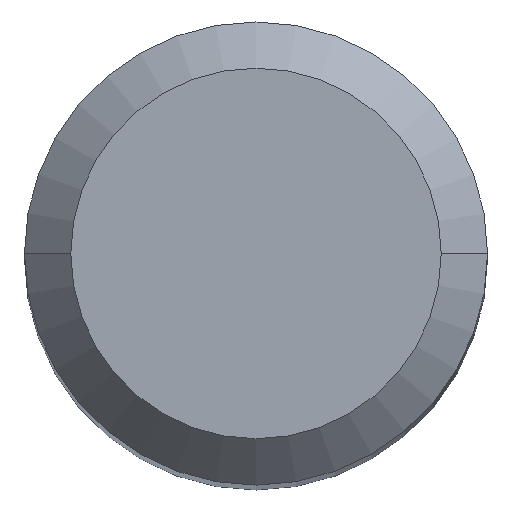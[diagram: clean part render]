
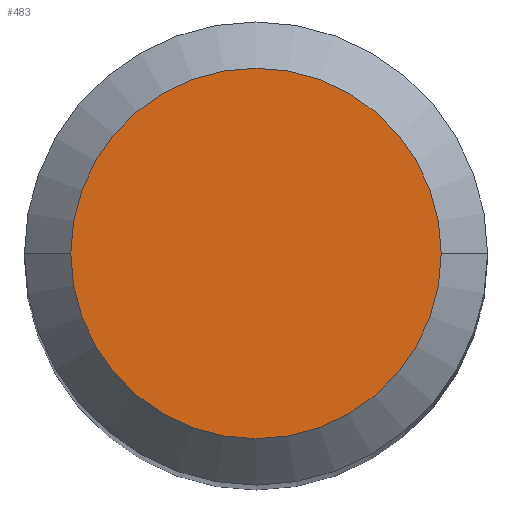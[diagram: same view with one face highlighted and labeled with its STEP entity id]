
A CAD part, top view. The second image highlights one B-rep face of the part: STEP entity #483.
In plain terms, the highlighted planar face has unit normal (0, 0, 1).
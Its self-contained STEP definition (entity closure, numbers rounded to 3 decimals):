
#11 = CARTESIAN_POINT ( 'NONE',  ( 2.4, 0., 0. ) ) ;
#12 = CIRCLE ( 'NONE', #581, 2.4 ) ;
#38 = VERTEX_POINT ( 'NONE', #11 ) ;
#78 = AXIS2_PLACEMENT_3D ( 'NONE', #202, #518, #560 ) ;
#194 = DIRECTION ( 'NONE',  ( 1., 0., 0. ) ) ;
#202 = CARTESIAN_POINT ( 'NONE',  ( 0., 0., 0. ) ) ;
#234 = DIRECTION ( 'NONE',  ( 0., 0., -1. ) ) ;
#237 = DIRECTION ( 'NONE',  ( -1., 0., 0. ) ) ;
#277 = CARTESIAN_POINT ( 'NONE',  ( 0., 2.4, 0. ) ) ;
#295 = ORIENTED_EDGE ( 'NONE', *, *, #596, .F. ) ;
#327 = DIRECTION ( 'NONE',  ( 0., 0., 1. ) ) ;
#358 = EDGE_LOOP ( 'NONE', ( #577, #295 ) ) ;
#419 = AXIS2_PLACEMENT_3D ( 'NONE', #277, #327, #194 ) ;
#423 = VERTEX_POINT ( 'NONE', #547 ) ;
#483 = ADVANCED_FACE ( 'NONE', ( #595 ), #512, .T. ) ;
#497 = EDGE_CURVE ( 'NONE', #423, #38, #12, .T. ) ;
#512 = PLANE ( 'NONE',  #419 ) ;
#518 = DIRECTION ( 'NONE',  ( 0., 0., -1. ) ) ;
#522 = CIRCLE ( 'NONE', #78, 2.4 ) ;
#547 = CARTESIAN_POINT ( 'NONE',  ( -2.4, 0., 0. ) ) ;
#558 = CARTESIAN_POINT ( 'NONE',  ( 0., 0., 0. ) ) ;
#560 = DIRECTION ( 'NONE',  ( -1., 0., 0. ) ) ;
#577 = ORIENTED_EDGE ( 'NONE', *, *, #497, .F. ) ;
#581 = AXIS2_PLACEMENT_3D ( 'NONE', #558, #234, #237 ) ;
#595 = FACE_OUTER_BOUND ( 'NONE', #358, .T. ) ;
#596 = EDGE_CURVE ( 'NONE', #38, #423, #522, .T. ) ;
